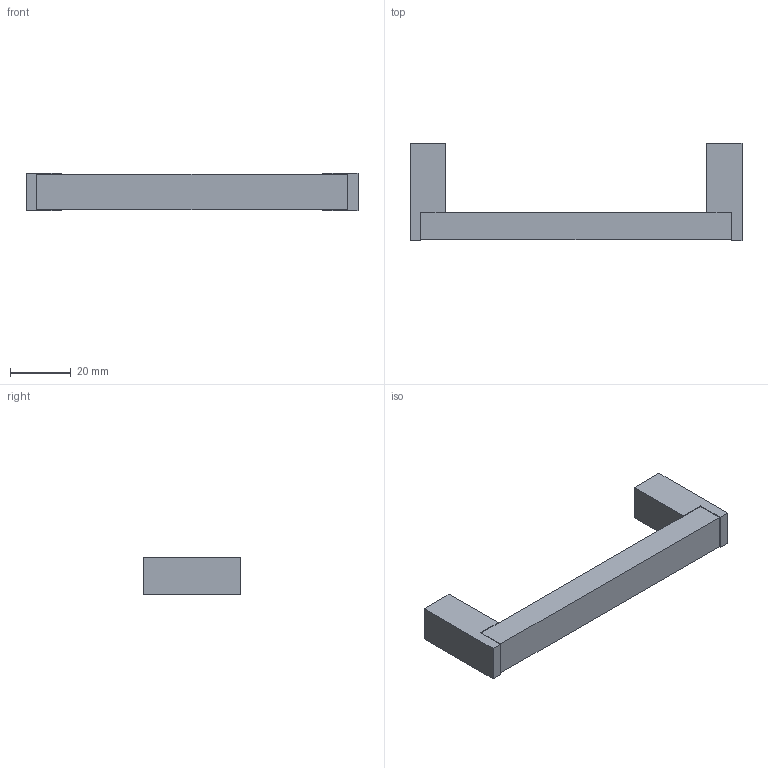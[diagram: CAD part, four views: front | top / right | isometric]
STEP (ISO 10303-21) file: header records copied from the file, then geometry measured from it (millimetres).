
FILE_DESCRIPTION( ( 'STEP AP214' ), '1' );
FILE_NAME( 'C:/Users/kulkarni/Desktop/Apurva/2015/Prodecor_2016/Cadfiles/bermeo/9208073.stp', ' ', ( ' ' ), ( ' ' ), 'PSStep 15.0.47', 'PARTsolutions', ' ' );
FILE_SCHEMA( ( 'AUTOMOTIVE_DESIGN { 1 0 10303 214 1 1 1 1 }' ) );
Length unit declared in the file: millimetre
Products named in the file (1): _
Bounding box: 109 x 32 x 12.15 mm (x, y, z)
Volume: 17211.5 mm3; surface area: 7387 mm2
Topology: 1 solids, 1 shells, 26 faces, 62 edges, 40 vertices
Faces by surface type: plane 24, cylinder 2
Full cylindrical faces by diameter (mm): 5 x2
Entity records: 952 total; most frequent: CARTESIAN_POINT 127, ORIENTED_EDGE 120, DIRECTION 118, EDGE_CURVE 60, LINE 56, VECTOR 56, VERTEX_POINT 40, AXIS2_PLACEMENT_3D 31
